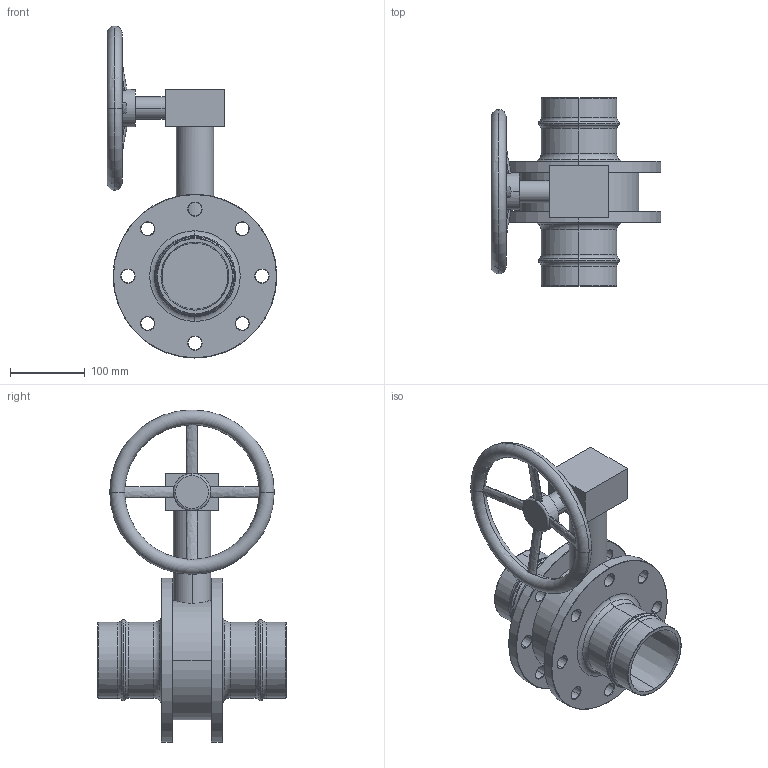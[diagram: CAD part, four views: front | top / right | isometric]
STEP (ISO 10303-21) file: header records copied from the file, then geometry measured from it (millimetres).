
FILE_DESCRIPTION((''),'2;1');
FILE_NAME('AU15805100','2017-05-12T',('Administrator'),(''),'PRO/ENGINEER BY PARAMETRIC TECHNOLOGY CORPORATION, 2009360','PRO/ENGINEER BY PARAMETRIC TECHNOLOGY CORPORATION, 2009360','');
FILE_SCHEMA(('AUTOMOTIVE_DESIGN_CC2 { 1 2 10303 214 -1 1 5 2 }'));
Length unit declared in the file: millimetre
Products named in the file (1): AU15805100
Bounding box: 227.28 x 252.41 x 444.67 mm (x, y, z)
Volume: 3052050 mm3; surface area: 369750.2 mm2
Topology: 1 solids, 1 shells, 198 faces, 576 edges, 366 vertices
Faces by surface type: cone 116, torus 38, cylinder 20, plane 16, extrusion 8
Entity records: 8840 total; most frequent: CARTESIAN_POINT 1567, DIRECTION 1268, ORIENTED_EDGE 1152, PRESENTATION_STYLE_ASSIGNMENT 577, STYLED_ITEM 577, CURVE_STYLE 576, EDGE_CURVE 576, AXIS2_PLACEMENT_3D 552
